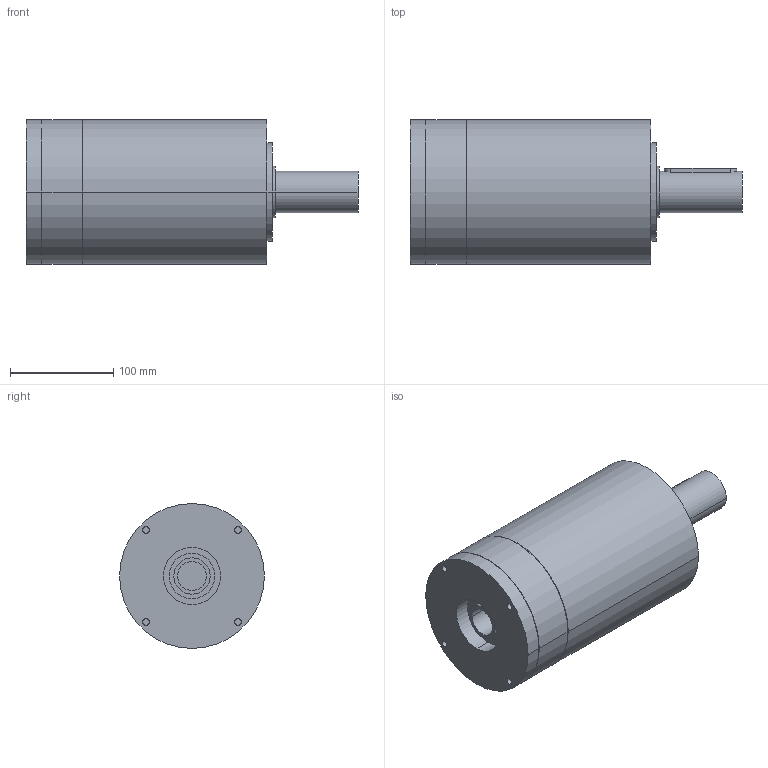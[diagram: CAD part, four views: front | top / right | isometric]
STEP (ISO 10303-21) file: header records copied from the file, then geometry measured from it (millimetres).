
FILE_DESCRIPTION(('CoCreate Modeling STEP Export'),'2;1');
FILE_NAME('GPR150_ig-9-12-16-20-28-35_40_B14_28_P01.stp','2014-08-19T17:03:42',(''),(''),'CoCreate Modeling STEP processor for AP214 (Solid Model)','CoCreate Modeling 16.00C 25-Feb-2009 (C) Parametric Technology GmbH','');
FILE_SCHEMA(('AUTOMOTIVE_DESIGN { 1 0 10303 214 1 1 1 1 }'));
Length unit declared in the file: millimetre
Products named in the file (2): GPR150_ig-9-12-16-20-28-35_40_B14_28_P01
Assembly tree (1 placements, depth 2):
  GPR150_ig-9-12-16-20-28-35_40_B14_28_P01
    GPR150_ig-9-12-16-20-28-35_40_B14_28_P01
Bounding box: 321 x 140 x 140 mm (x, y, z)
Volume: 3637441.5 mm3; surface area: 163513.1 mm2
Topology: 1 solids, 1 shells, 80 faces, 197 edges, 139 vertices
Faces by surface type: cylinder 48, plane 26, cone 6
Entity records: 2025 total; most frequent: ORIENTED_EDGE 390, CARTESIAN_POINT 388, DIRECTION 262, EDGE_CURVE 195, VERTEX_POINT 139, EDGE_LOOP 102, AXIS2_PLACEMENT_3D 101, FACE_OUTER_BOUND 80
